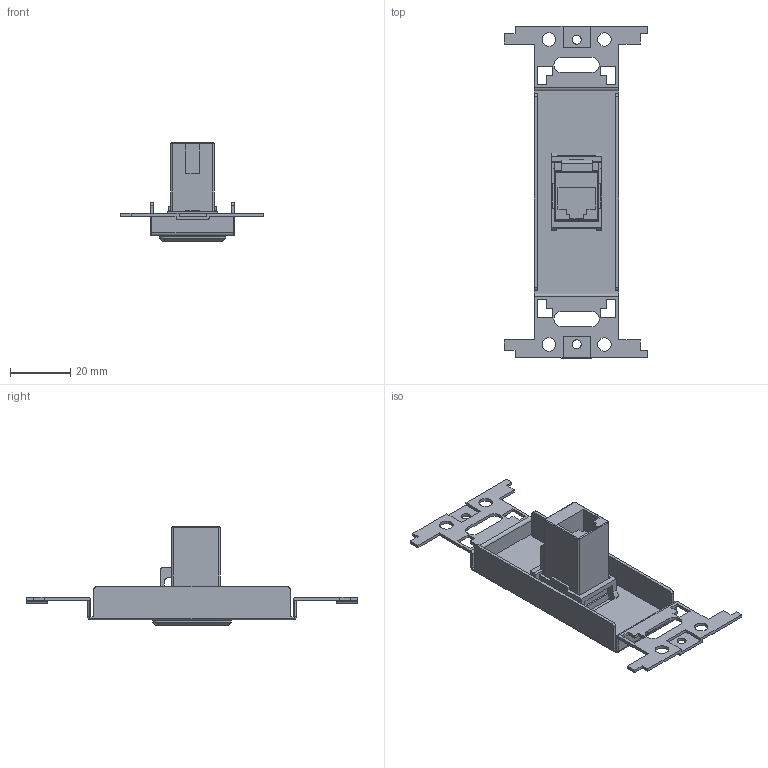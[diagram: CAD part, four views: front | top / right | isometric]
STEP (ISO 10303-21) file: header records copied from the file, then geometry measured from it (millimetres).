
FILE_DESCRIPTION(('FreeCAD Model'),'2;1');
FILE_NAME('Open CASCADE Shape Model','2026-09-10T14:19:08',(''),(''), 'Open CASCADE STEP processor 7.8','FreeCAD','Unknown');
FILE_SCHEMA(('AUTOMOTIVE_DESIGN { 1 0 10303 214 1 1 1 1 }'));
Length unit declared in the file: millimetre
Products named in the file (5): CMW_SIC6_BK; P_200795_XX; P-200795; 3013BUS12xx; FA-396-8-C6-BK
Assembly tree (4 placements, depth 3):
  CMW_SIC6_BK
    P_200795_XX
      P-200795
      3013BUS12xx
    FA-396-8-C6-BK
Bounding box: 47.6 x 110 x 32.5 mm (x, y, z)
Volume: 10949.6 mm3; surface area: 14850.1 mm2
Topology: 3 solids, 3 shells, 266 faces, 745 edges, 482 vertices
Faces by surface type: plane 145, bspline 67, cylinder 42, revolution 8, torus 4
Full cylindrical faces by diameter (mm): 3 x2, 4.5 x4
Entity records: 9445 total; most frequent: CARTESIAN_POINT 2968, ORIENTED_EDGE 1486, DIRECTION 1040, EDGE_CURVE 741, VERTEX_POINT 482, LINE 448, VECTOR 448, FACE_BOUND 301
